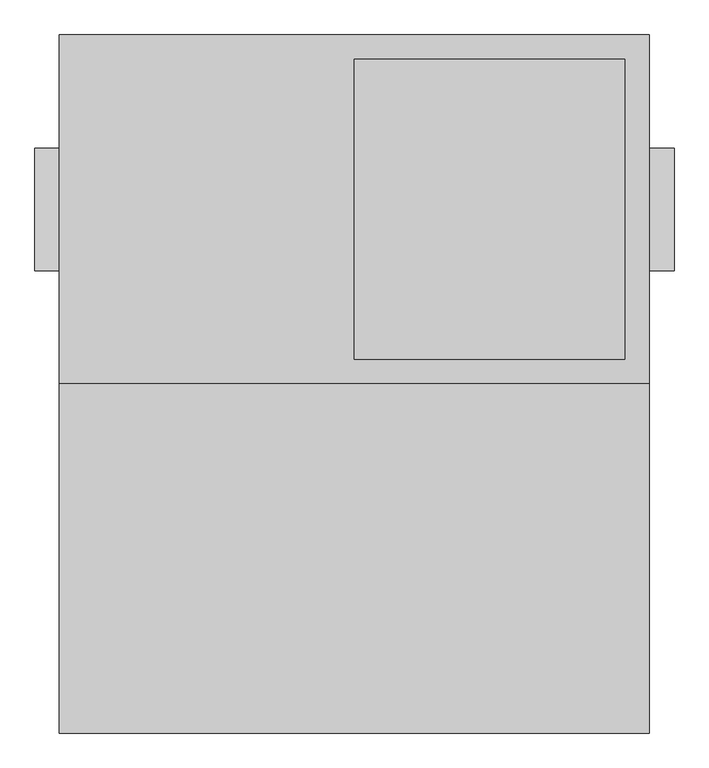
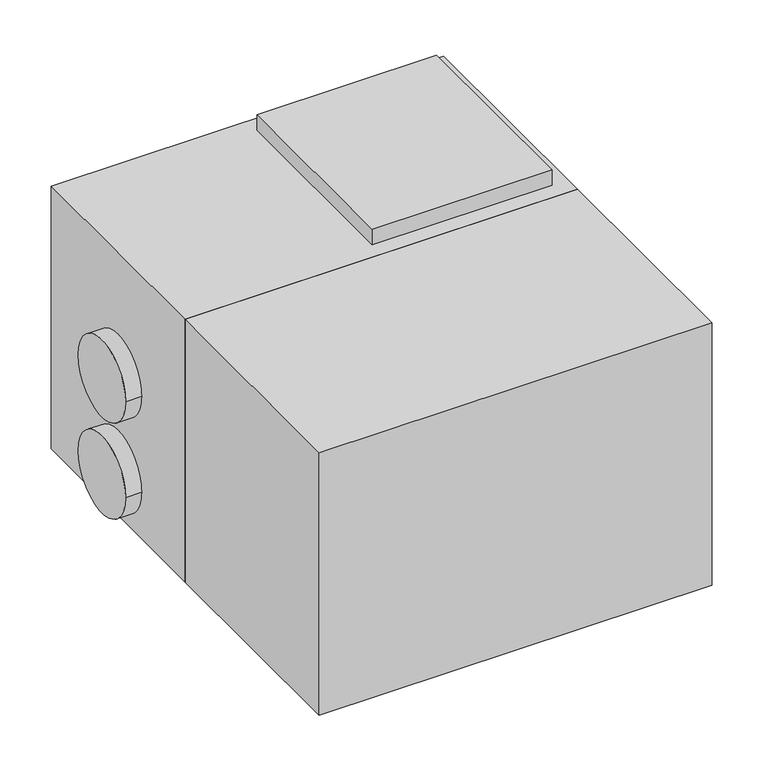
"""IFC4 building model written with IfcOpenShell, lengths in millimetres: proxy geometry, ADSK_КПВУ RIVIERA-EC HRW_круглая : Riviera-EC HRW 850."""

from ifc_helpers import new_model, si_unit, point, frame, frame_2d, origin, place, context, project, spatial, polyline, circle_curve, trimmed, segment, composite_curve, outline, extrude, faceted_brep, source, transform, mapped, element, save


def mechanical_equipment_83cae195(model_context):
    return source(origin(), model_context, "Body", "SolidModel", [
        extrude(outline(polyline([(866.0, -355.0), (866.0, -1065.0), (-334.0, -1065.0), (-334.0, -355.0), (866.0, -355.0)])), frame((0.0, 0.0, 40.0), z_axis=(0.0, 0.0, 1.0), x_axis=(1.0, 0.0, 0.0)), (0.0, 0.0, 1.0), 849.0),
        faceted_brep([(866.0, -355.0, 889.0), (866.0, -355.0, 40.0), (866.0, 355.0, 40.0), (866.0, 355.0, 889.0), (-334.0, -355.0, 889.0), (-334.0, 355.0, 889.0), (-334.0, 355.0, 40.0), (-334.0, -355.0, 40.0), (266.0, 305.0, 889.0), (816.0, 305.0, 889.0), (816.0, -305.0, 889.0), (266.0, -305.0, 889.0), (816.0, 305.0, 940.0), (266.0, 305.0, 940.0), (266.0, -305.0, 940.0), (816.0, -305.0, 940.0)], [[[0, 1, 2, 3]], [[4, 5, 6, 7]], [[1, 0, 4, 7]], [[2, 1, 7, 6]], [[3, 2, 6, 5]], [[0, 3, 5, 4], [8, 9, 10, 11]], [[12, 13, 14, 15]], [[13, 12, 9, 8]], [[14, 13, 8, 11]], [[15, 14, 11, 10]], [[12, 15, 10, 9]]]),
        extrude(outline(composite_curve([segment(trimmed(circle_curve(frame_2d((0.0, 501.0)), 125.0), [point((-125.0, 501.0))], [point((125.0, 501.0))], False, "CARTESIAN"), True, "CONTINUOUS"), segment(trimmed(circle_curve(frame_2d((0.0, 501.0)), 125.0), [point((125.0, 501.0))], [point((-125.0, 501.0))], False, "CARTESIAN"), True, "CONTINUOUS")], self_intersect=False)), frame((-384.0, 0.0, 0.0), z_axis=(1.0, 0.0, 0.0), x_axis=(0.0, 1.0, 0.0)), (0.0, 0.0, 1.0), 50.0),
        extrude(outline(composite_curve([segment(trimmed(circle_curve(frame_2d((0.0, 191.0)), 125.0), [point((-125.0, 191.0))], [point((125.0, 191.0))], False, "CARTESIAN"), True, "CONTINUOUS"), segment(trimmed(circle_curve(frame_2d((0.0, 191.0)), 125.0), [point((125.0, 191.0))], [point((-125.0, 191.0))], False, "CARTESIAN"), True, "CONTINUOUS")], self_intersect=False)), frame((-384.0, 0.0, 0.0), z_axis=(1.0, 0.0, 0.0), x_axis=(0.0, 1.0, 0.0)), (0.0, 0.0, 1.0), 50.0),
        extrude(outline(composite_curve([segment(trimmed(circle_curve(frame_2d((0.0, 501.0)), 125.0), [point((-125.0, 501.0))], [point((125.0, 501.0))], False, "CARTESIAN"), True, "CONTINUOUS"), segment(trimmed(circle_curve(frame_2d((0.0, 501.0)), 125.0), [point((125.0, 501.0))], [point((-125.0, 501.0))], False, "CARTESIAN"), True, "CONTINUOUS")], self_intersect=False)), frame((866.0, 0.0, 0.0), z_axis=(1.0, 0.0, 0.0), x_axis=(0.0, 1.0, 0.0)), (0.0, 0.0, 1.0), 50.0),
        extrude(outline(composite_curve([segment(trimmed(circle_curve(frame_2d((0.0, 191.0)), 125.0), [point((-125.0, 191.0))], [point((125.0, 191.0))], False, "CARTESIAN"), True, "CONTINUOUS"), segment(trimmed(circle_curve(frame_2d((0.0, 191.0)), 125.0), [point((125.0, 191.0))], [point((-125.0, 191.0))], False, "CARTESIAN"), True, "CONTINUOUS")], self_intersect=False)), frame((866.0, 0.0, 0.0), z_axis=(1.0, 0.0, 0.0), x_axis=(0.0, 1.0, 0.0)), (0.0, 0.0, 1.0), 50.0),
        extrude(outline(polyline([(0.0, -154.0), (40.0, -154.0), (40.0, -164.0), (10.0, -164.0), (10.0, -204.0), (40.0, -204.0), (40.0, -214.0), (0.0, -214.0), (0.0, -154.0)])), frame((0.0, -355.0, 0.0), z_axis=(0.0, 1.0, 0.0), x_axis=(0.0, 0.0, 1.0)), (0.0, 0.0, 1.0), 710.0),
        extrude(outline(polyline([(0.0, 746.0), (40.0, 746.0), (40.0, 736.0), (10.0, 736.0), (10.0, 696.0), (40.0, 696.0), (40.0, 686.0), (0.0, 686.0), (0.0, 746.0)])), frame((0.0, -355.0, 0.0), z_axis=(0.0, 1.0, 0.0), x_axis=(0.0, 0.0, 1.0)), (0.0, 0.0, 1.0), 710.0),
    ])


if __name__ == "__main__":
    model = new_model("IFC4")
    model_context = context("Model", 3, world=origin())
    ifc_project = project(units=[si_unit("LENGTHUNIT", "METRE", prefix="MILLI")], contexts=[model_context])
    site = spatial("IfcSite", under=ifc_project)
    building = spatial("IfcBuilding", under=site)
    placement = place(None, origin())
    mechanical_equipment_shape = mechanical_equipment_83cae195(model_context)
    element("IfcBuildingElementProxy", 1, Name="ADSK_КПВУ RIVIERA-EC HRW_круглая : Riviera-EC HRW 850", ObjectType="ADSK_КПВУ RIVIERA-EC HRW_круглая : Riviera-EC HRW 850", at=placement, inside=building, context=model_context, shape_type="MappedRepresentation", body=[
        mapped(mechanical_equipment_shape, transform((0.0, 0.0, 0.0), x_axis=(1.0, 0.0, 0.0), y_axis=(0.0, 1.0, 0.0), z_axis=(0.0, 0.0, 1.0))),
    ])
    save(model, "model.ifc")
